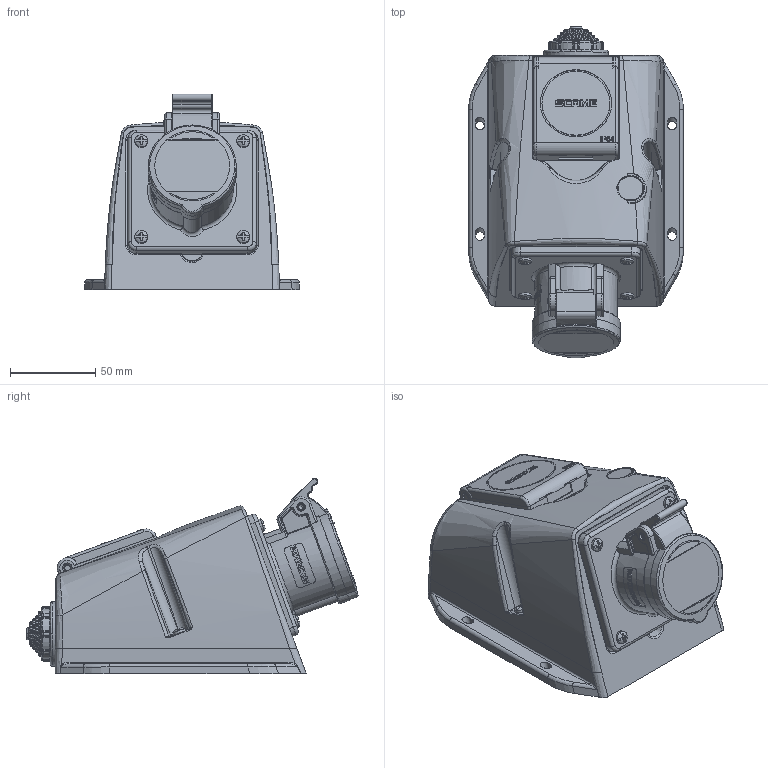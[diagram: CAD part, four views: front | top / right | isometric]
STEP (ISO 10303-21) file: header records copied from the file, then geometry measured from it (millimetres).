
FILE_DESCRIPTION(/* description */ (''),/* implementation_level */ '2;1');
FILE_NAME(/* name */ '4002553.stp',/* time_stamp */ '2019-10-17T08:22:00+02:00',/* author */ (''),/* organization */ (''),/* preprocessor_version */ 'ST-DEVELOPER v16.7',/* originating_system */ 'SIEMENS PLM Software NX 1884',/* authorisation */ '');
FILE_SCHEMA (('AUTOMOTIVE_DESIGN { 1 0 10303 214 3 1 1 1 }'));
Products named in the file (1): BSOMDDD8164Dib89
Bounding box: 126.5 x 195.26 x 115.14 mm (x, y, z)
Volume: 275728.3 mm3; surface area: 256029.7 mm2
Topology: 18 solids, 18 shells, 3182 faces, 8180 edges, 5099 vertices
Faces by surface type: plane 1265, cylinder 871, bspline 619, torus 224, cone 147, sphere 30, extrusion 26
Full cylindrical faces by diameter (mm): 0.2 x1, 0.4 x1, 1 x3, 2.8 x2, 3 x2, 3.2 x10, 4 x8, 4.1 x8, 4.2 x2, 4.3 x4, 4.85 x1, 5 x2, 5.2 x4, 5.5 x2, 6.9 x1, 7.1 x1, 7.6 x6, 8 x4, 30 x1, 30.5 x1, 31.998 x1, 32.5 x1, 35 x2, 38 x1, 39 x1, 43 x2
Entity records: 145803 total; most frequent: CARTESIAN_POINT 74775, ORIENTED_EDGE 15518, DIRECTION 12922, EDGE_CURVE 7759, VERTEX_POINT 5028, AXIS2_PLACEMENT_3D 4637, EDGE_LOOP 3680, VECTOR 3648
